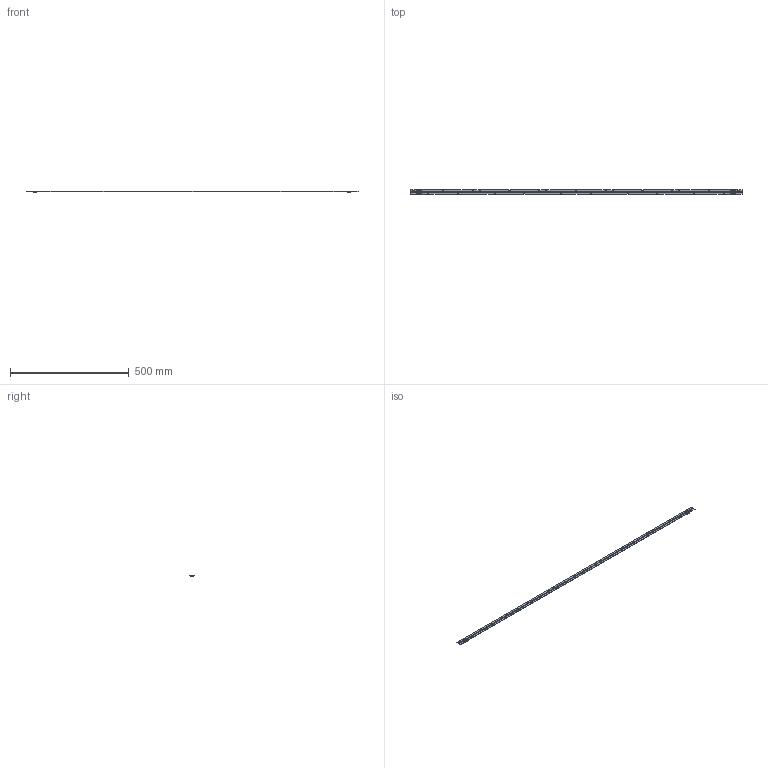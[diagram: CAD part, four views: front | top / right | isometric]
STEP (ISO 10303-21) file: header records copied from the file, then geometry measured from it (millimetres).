
FILE_DESCRIPTION(/* description */ (''),/* implementation_level */ '2;1');
FILE_NAME(/* name */ 'C:\Data\Vault\LE-TPD\4422 946 92780_SB Fortimo LED Strip 5ft 5500lm LV5\4422-946-92781_BC.stp',/* time_stamp */ '2019-08-20T14:01:36+02:00',/* author */ ('600010516'),/* organization */ (''),/* preprocessor_version */ 'ST-DEVELOPER v16.5',/* originating_system */ 'Autodesk Inventor 2017',/* authorisation */ '');
FILE_SCHEMA (('AUTOMOTIVE_DESIGN { 1 0 10303 214 3 1 1 }'));
Products named in the file (1): 4422-946-92780
Bounding box: 1399.2 x 20 x 7.35 mm (x, y, z)
Volume: 45875.8 mm3; surface area: 65227.9 mm2
Topology: 1 solids, 361 shells, 12828 faces, 35706 edges, 23752 vertices
Faces by surface type: plane 11018, cylinder 1774, bspline 36
Full cylindrical faces by diameter (mm): 0.7 x4
Entity records: 421659 total; most frequent: CARTESIAN_POINT 75991, ORIENTED_EDGE 71396, DIRECTION 64716, EDGE_CURVE 35698, LINE 32042, VECTOR 32042, VERTEX_POINT 23748, AXIS2_PLACEMENT_3D 16337
